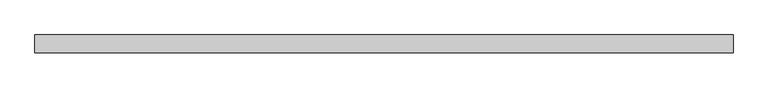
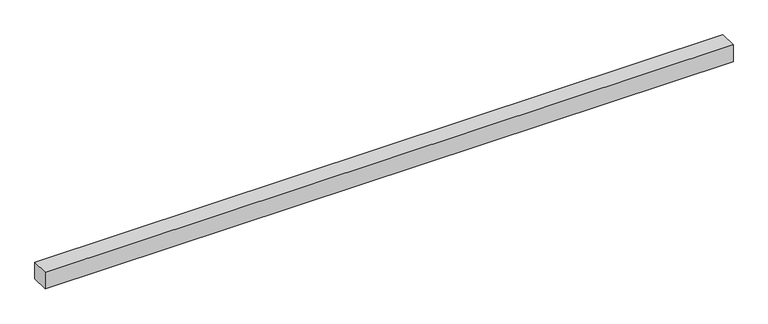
"""IFC4 building model written with IfcOpenShell, lengths in millimetres: light fixture geometry, GENILED_Светильник светодиодный_Line Alum Advanced : Line Alum Advanced 1960x50x50 80Вт 90Ra Опал."""

from ifc_helpers import new_model, si_unit, origin, origin_with_axes, place, context, project, spatial, polyline, outline, extrude, faceted_brep, source, transform, mapped, element, save


def light_fixture_1d3cdff3(model_context):
    return source(origin(), model_context, "Body", "SolidModel", [
        faceted_brep([(980.0, 25.0, 50.0), (-980.0, 25.0, 50.0), (-980.0, -25.0, 50.0), (980.0, -25.0, 50.0), (978.0, 23.0, 5.0), (978.0, -23.0, 5.0), (-978.0, -23.0, 5.0), (-978.0, 23.0, 5.0), (980.0, 25.0, 0.0), (980.0, -25.0, 0.0), (-980.0, -25.0, 0.0), (-980.0, 25.0, 0.0), (978.0, 23.0, 0.0), (-978.0, 23.0, 0.0), (-978.0, -23.0, 0.0), (978.0, -23.0, 0.0)], [[[0, 1, 2, 3]], [[4, 5, 6, 7]], [[8, 9, 10, 11], [12, 13, 14, 15]], [[1, 0, 8, 11]], [[2, 1, 11, 10]], [[3, 2, 10, 9]], [[0, 3, 9, 8]], [[12, 15, 5, 4]], [[15, 14, 6, 5]], [[14, 13, 7, 6]], [[13, 12, 4, 7]]]),
        extrude(outline(polyline([(978.0, 23.0), (978.0, -23.0), (-978.0, -23.0), (-978.0, 23.0), (978.0, 23.0)])), origin_with_axes(), (0.0, 0.0, 1.0), 5.0),
    ])


if __name__ == "__main__":
    model = new_model("IFC4")
    model_context = context("Model", 3, world=origin())
    ifc_project = project(units=[si_unit("LENGTHUNIT", "METRE", prefix="MILLI")], contexts=[model_context])
    site = spatial("IfcSite", under=ifc_project)
    building = spatial("IfcBuilding", under=site)
    placement = place(None, origin())
    light_fixture_shape = light_fixture_1d3cdff3(model_context)
    element("IfcLightFixture", 1, ObjectType="GENILED_Светильник светодиодный_Line Alum Advanced : Line Alum Advanced 1960x50x50 80Вт 90Ra Опал", at=placement, inside=building, context=model_context, shape_type="MappedRepresentation", body=[
        mapped(light_fixture_shape, transform((0.0, 0.0, 0.0), x_axis=(1.0, 0.0, 0.0), y_axis=(0.0, 1.0, 0.0), z_axis=(0.0, 0.0, 1.0))),
    ])
    save(model, "model.ifc")
